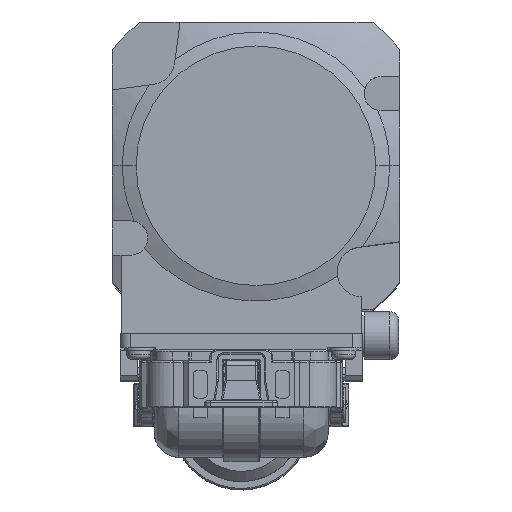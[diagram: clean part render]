
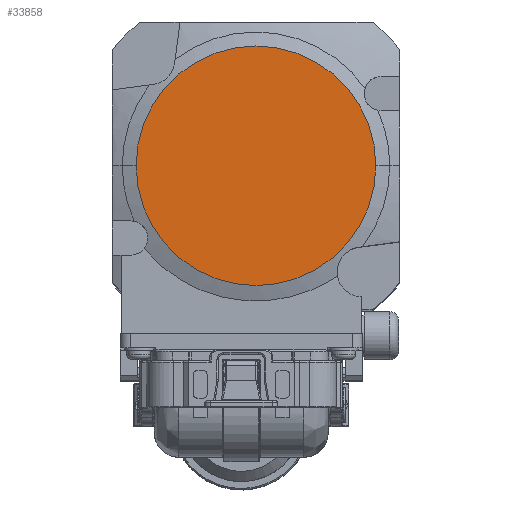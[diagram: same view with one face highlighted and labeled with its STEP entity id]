
A CAD part, top view. The second image highlights one B-rep face of the part: STEP entity #33858.
In plain terms, the highlighted planar face has unit normal (0, 0, 1).
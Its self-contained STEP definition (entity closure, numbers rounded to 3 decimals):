
#870 = CARTESIAN_POINT ( 'NONE',  ( 0., 0., 107. ) ) ;
#2627 = FACE_OUTER_BOUND ( 'NONE', #13319, .T. ) ;
#4147 = DIRECTION ( 'NONE',  ( 1., 0., 0. ) ) ;
#4580 = VERTEX_POINT ( 'NONE', #9155 ) ;
#5189 = CIRCLE ( 'NONE', #30256, 17.5 ) ;
#9155 = CARTESIAN_POINT ( 'NONE',  ( 17.5, 0., 107. ) ) ;
#12281 = EDGE_CURVE ( 'NONE', #18393, #4580, #5189, .T. ) ;
#13319 = EDGE_LOOP ( 'NONE', ( #33689, #27027 ) ) ;
#13385 = CARTESIAN_POINT ( 'NONE',  ( 0., 0., 107. ) ) ;
#14868 = EDGE_CURVE ( 'NONE', #4580, #18393, #35382, .T. ) ;
#14915 = DIRECTION ( 'NONE',  ( 0., 0., 1. ) ) ;
#15925 = PLANE ( 'NONE',  #26200 ) ;
#18393 = VERTEX_POINT ( 'NONE', #34716 ) ;
#18878 = DIRECTION ( 'NONE',  ( 0., 0., 1. ) ) ;
#24543 = DIRECTION ( 'NONE',  ( 1., 0., 0. ) ) ;
#26079 = DIRECTION ( 'NONE',  ( 1., 0., 0. ) ) ;
#26200 = AXIS2_PLACEMENT_3D ( 'NONE', #13385, #32769, #24543 ) ;
#27027 = ORIENTED_EDGE ( 'NONE', *, *, #14868, .T. ) ;
#29868 = CARTESIAN_POINT ( 'NONE',  ( 0., 0., 107. ) ) ;
#30256 = AXIS2_PLACEMENT_3D ( 'NONE', #29868, #18878, #4147 ) ;
#32769 = DIRECTION ( 'NONE',  ( 0., 0., 1. ) ) ;
#33689 = ORIENTED_EDGE ( 'NONE', *, *, #12281, .T. ) ;
#33858 = ADVANCED_FACE ( 'NONE', ( #2627 ), #15925, .T. ) ;
#34193 = AXIS2_PLACEMENT_3D ( 'NONE', #870, #14915, #26079 ) ;
#34716 = CARTESIAN_POINT ( 'NONE',  ( -17.5, 0., 107. ) ) ;
#35382 = CIRCLE ( 'NONE', #34193, 17.5 ) ;
